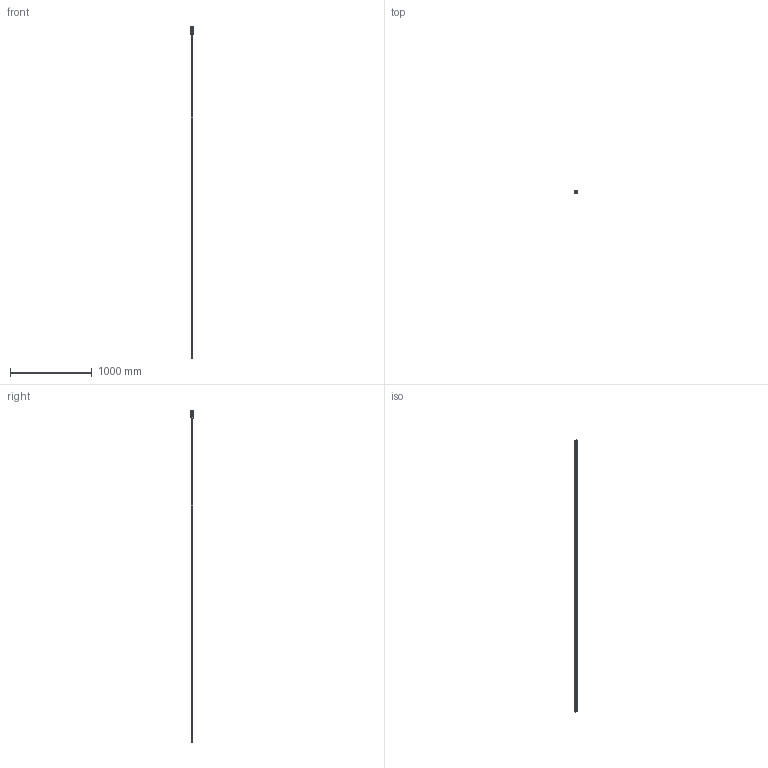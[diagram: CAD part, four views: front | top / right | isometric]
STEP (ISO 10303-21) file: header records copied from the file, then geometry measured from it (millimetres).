
FILE_DESCRIPTION (( 'STEP AP214' ), '1' );
FILE_NAME ('083516-4x21x11 mit Verbinderkappe.STEP', '2014-11-25T07:49:51', ( '' ), ( '' ), 'SwSTEP 2.0', 'SolidWorks 2012', '' );
FILE_SCHEMA (( 'AUTOMOTIVE_DESIGN' ));
Length unit declared in the file: millimetre
Products named in the file (1): 083516-4x21x11 mit Verbinderkappe
Bounding box: 28.7 x 26.8 x 4051.7 mm (x, y, z)
Volume: 817089.7 mm3; surface area: 1567132.8 mm2
Topology: 1 solids, 1 shells, 766 faces, 2238 edges, 1454 vertices
Faces by surface type: plane 443, cylinder 307, torus 16
Entity records: 27874 total; most frequent: CARTESIAN_POINT 5303, ORIENTED_EDGE 4476, DIRECTION 4030, EDGE_CURVE 2238, LINE 1524, VECTOR 1524, VERTEX_POINT 1454, AXIS2_PLACEMENT_3D 1253
